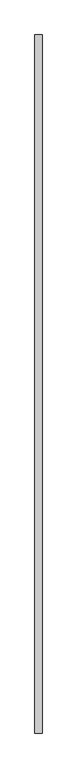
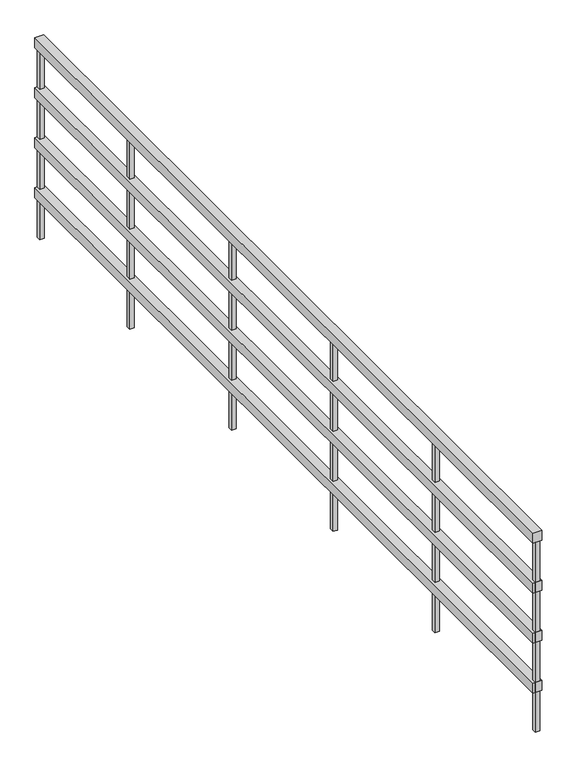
"""IFC4 building model written with IfcOpenShell, lengths in millimetres: railing geometry, RL780-금속재 난간."""

from ifc_helpers import new_model, si_unit, frame, origin, place, context, project, spatial, polyline, outline, extrude, source, transform, mapped, element, save


def railing_45e0a353(model_context):
    return source(origin(), model_context, "Body", "SweptSolid", [
        extrude(outline(polyline([(15175.0, 300.0), (15125.0, 300.0), (15125.0, 5200.0), (15175.0, 5200.0), (15175.0, 300.0)])), frame((0.0, 0.0, 990.0), z_axis=(0.0, 0.0, 1.0), x_axis=(1.0, 0.0, 0.0)), (0.0, 0.0, 1.0), 60.0),
        extrude(outline(polyline([(15175.0, 300.0), (15125.0, 300.0), (15125.0, 5200.0), (15175.0, 5200.0), (15175.0, 300.0)])), frame((0.0, 0.0, 690.0), z_axis=(0.0, 0.0, 1.0), x_axis=(1.0, 0.0, 0.0)), (0.0, 0.0, 1.0), 60.0),
        extrude(outline(polyline([(15175.0, 300.0), (15125.0, 300.0), (15125.0, 5200.0), (15175.0, 5200.0), (15175.0, 300.0)])), frame((0.0, 0.0, 390.0), z_axis=(0.0, 0.0, 1.0), x_axis=(1.0, 0.0, 0.0)), (0.0, 0.0, 1.0), 60.0),
        extrude(outline(polyline([(15175.0, 300.0), (15125.0, 300.0), (15125.0, 5200.0), (15175.0, 5200.0), (15175.0, 300.0)])), frame((0.0, 0.0, 90.0), z_axis=(0.0, 0.0, 1.0), x_axis=(1.0, 0.0, 0.0)), (0.0, 0.0, 1.0), 60.0),
        extrude(outline(polyline([(15162.5, 4287.5), (15137.5, 4287.5), (15137.5, 4312.5), (15162.5, 4312.5), (15162.5, 4287.5)])), frame((0.0, 0.0, -150.0), z_axis=(0.0, 0.0, 1.0), x_axis=(1.0, 0.0, 0.0)), (0.0, 0.0, 1.0), 1140.0),
        extrude(outline(polyline([(15162.5, 3287.5), (15137.5, 3287.5), (15137.5, 3312.5), (15162.5, 3312.5), (15162.5, 3287.5)])), frame((0.0, 0.0, -150.0), z_axis=(0.0, 0.0, 1.0), x_axis=(1.0, 0.0, 0.0)), (0.0, 0.0, 1.0), 1140.0),
        extrude(outline(polyline([(15162.5, 2287.5), (15137.5, 2287.5), (15137.5, 2312.5), (15162.5, 2312.5), (15162.5, 2287.5)])), frame((0.0, 0.0, -150.0), z_axis=(0.0, 0.0, 1.0), x_axis=(1.0, 0.0, 0.0)), (0.0, 0.0, 1.0), 1140.0),
        extrude(outline(polyline([(15162.5, 1287.5), (15137.5, 1287.5), (15137.5, 1312.5), (15162.5, 1312.5), (15162.5, 1287.5)])), frame((0.0, 0.0, -150.0), z_axis=(0.0, 0.0, 1.0), x_axis=(1.0, 0.0, 0.0)), (0.0, 0.0, 1.0), 1140.0),
        extrude(outline(polyline([(15162.5, 5175.0), (15137.5, 5175.0), (15137.5, 5200.0), (15162.5, 5200.0), (15162.5, 5175.0)])), frame((0.0, 0.0, -150.0), z_axis=(0.0, 0.0, 1.0), x_axis=(1.0, 0.0, 0.0)), (0.0, 0.0, 1.0), 1140.0),
        extrude(outline(polyline([(15162.5, 300.0), (15137.5, 300.0), (15137.5, 325.0), (15162.5, 325.0), (15162.5, 300.0)])), frame((0.0, 0.0, -150.0), z_axis=(0.0, 0.0, 1.0), x_axis=(1.0, 0.0, 0.0)), (0.0, 0.0, 1.0), 1140.0),
    ])


if __name__ == "__main__":
    model = new_model("IFC4")
    model_context = context("Model", 3, world=origin())
    ifc_project = project(units=[si_unit("LENGTHUNIT", "METRE", prefix="MILLI")], contexts=[model_context])
    site = spatial("IfcSite", under=ifc_project)
    building = spatial("IfcBuilding", under=site)
    placement = place(None, origin())
    railing_shape = railing_45e0a353(model_context)
    element("IfcRailing", 1, ObjectType="RL780-금속재 난간", at=placement, inside=building, context=model_context, shape_type="MappedRepresentation", body=[
        mapped(railing_shape, transform((0.0, 0.0, 0.0), x_axis=(1.0, 0.0, 0.0), y_axis=(0.0, 1.0, 0.0), z_axis=(0.0, 0.0, 1.0))),
    ])
    save(model, "model.ifc")
